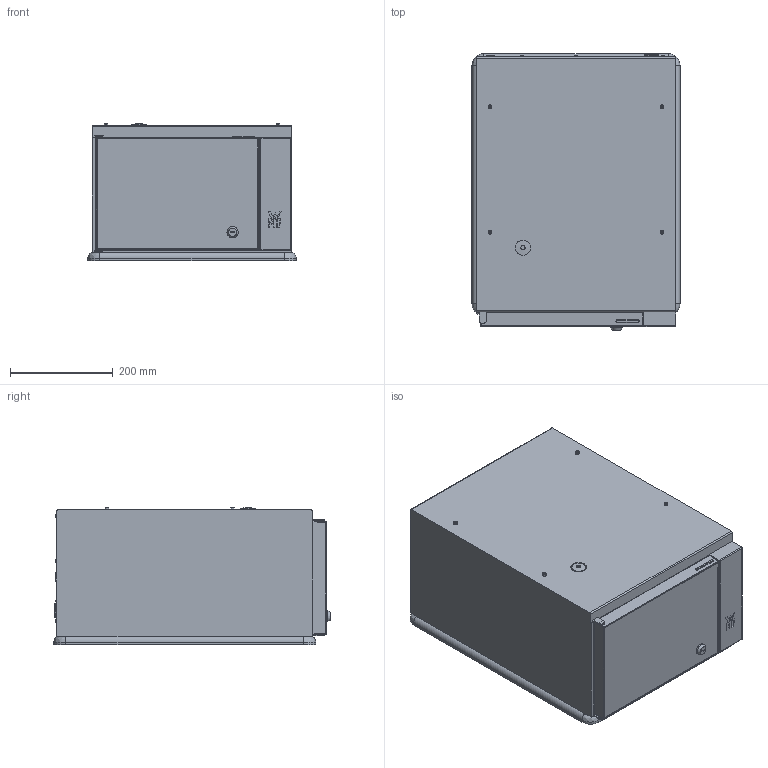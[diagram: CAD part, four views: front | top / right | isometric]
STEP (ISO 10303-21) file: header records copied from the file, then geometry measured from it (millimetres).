
FILE_DESCRIPTION(/* description */ (''),/* implementation_level */ '2;1');
FILE_NAME(/* name */ 'D:\Projekte\WMF\am\kuehler\03_9468_2000\3D\03_9468_2000_3d.stp',/* time_stamp */ '2016-01-16T10:15:14+01:00',/* author */ ('Andreas'),/* organization */ (''),/* preprocessor_version */ 'ST-DEVELOPER v15.2',/* originating_system */ 'Autodesk Inventor 2014',/* authorisation */ '');
FILE_SCHEMA (('AUTOMOTIVE_DESIGN { 1 0 10303 214 3 1 1 }'));
Length unit declared in the file: millimetre
Products named in the file (1): 03_9468_2000_3d
Bounding box: 406 x 539.3 x 268.2 mm (x, y, z)
Volume: 53857402.7 mm3; surface area: 942978.9 mm2
Topology: 1 solids, 1 shells, 971 faces, 2316 edges, 1506 vertices
Faces by surface type: plane 615, cylinder 321, sphere 11, torus 8, cone 8, bspline 8
Full cylindrical faces by diameter (mm): 6 x7, 7 x4, 8 x2, 8.5 x1, 9 x1, 14 x1, 22 x1, 26 x1, 27 x1, 30 x1, 37 x1
Entity records: 27896 total; most frequent: CARTESIAN_POINT 4930, DIRECTION 4890, ORIENTED_EDGE 4544, EDGE_CURVE 2272, AXIS2_PLACEMENT_3D 1679, LINE 1532, VECTOR 1532, VERTEX_POINT 1497
